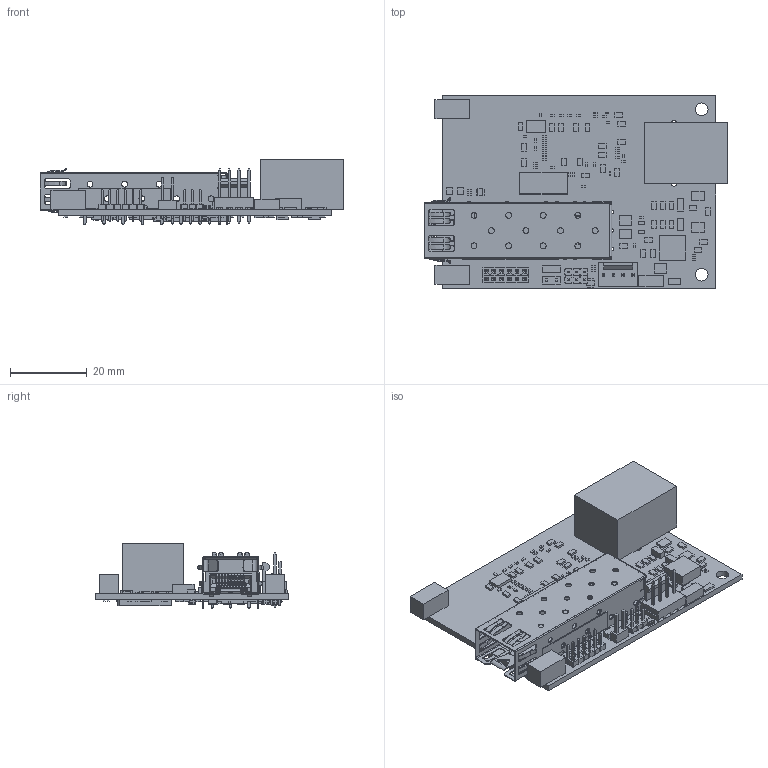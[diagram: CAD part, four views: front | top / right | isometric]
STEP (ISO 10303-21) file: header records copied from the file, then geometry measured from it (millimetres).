
FILE_DESCRIPTION(('Open CASCADE Model'),'2;1');
FILE_NAME('Open CASCADE Shape Model','2011-01-27T13:31:53',('Author'),( 'Open CASCADE'),'Open CASCADE STEP processor 6.2','Open CASCADE 6.2' ,'Unknown');
FILE_SCHEMA(('AUTOMOTIVE_DESIGN { 1 0 10303 214 1 1 1 1 }'));
Length unit declared in the file: millimetre
Products named in the file (311): PCB; Board; C19; 823532208; Extruded; C4; C18; C10; 456772032; C17; C31; 456770624; C23; C14; C43; C28; C32; C11; C5; 456772288; C6; C45; C26; C37; C57; C25; C39; C58; C30; C64; C53; C35; C54; C51; C36; C16; C41; C40; C13; C7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
Assembly tree (592 placements, depth 4):
  PCB
    Board
    C19
      823532208
        Extruded
    C4
      823532208
        Extruded
    C18
      823532208
        Extruded
    C10
      456772032
        Extruded
    C17
      456772032
        Extruded
    C31
      456770624
        Extruded
    C23
      456772032
        Extruded
    C14
      456772032
        Extruded
    C43
      456772032
        Extruded
    C28
      456772032
        Extruded
    C32
      456772032
        Extruded
    C11
      456772032
        Extruded
    C5
      456772288
        Extruded
    C6
      823532208
        Extruded
    C45
      823532208
        Extruded
    C26
      823532208
        Extruded
    C37
      456772288
        Extruded
    C57
      823532208
        Extruded
    C25
      456772288
        Extruded
    C39
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Bounding box: 78.81 x 50 x 16.75 mm (x, y, z)
Volume: 12606 mm3; surface area: 19342.6 mm2
Topology: 321 solids, 321 shells, 5282 faces, 13334 edges, 8683 vertices
Faces by surface type: plane 4185, cylinder 1039, torus 28, cone 27, bspline 3
Full cylindrical faces by diameter (mm): 0.81 x6, 0.85 x1, 0.89 x10, 0.95 x9, 0.991 x2, 1 x12, 1.02 x4, 1.05 x8, 1.2 x4, 1.55 x2, 1.6 x2, 3.2 x2, 3.25 x2, 3.3 x2
Entity records: 181255 total; most frequent: CARTESIAN_POINT 46971, DIRECTION 23434, LINE 14969, VECTOR 14969, ORIENTED_EDGE 13034, PCURVE 13034, DEFINITIONAL_REPRESENTATION 13034, EDGE_CURVE 6517
